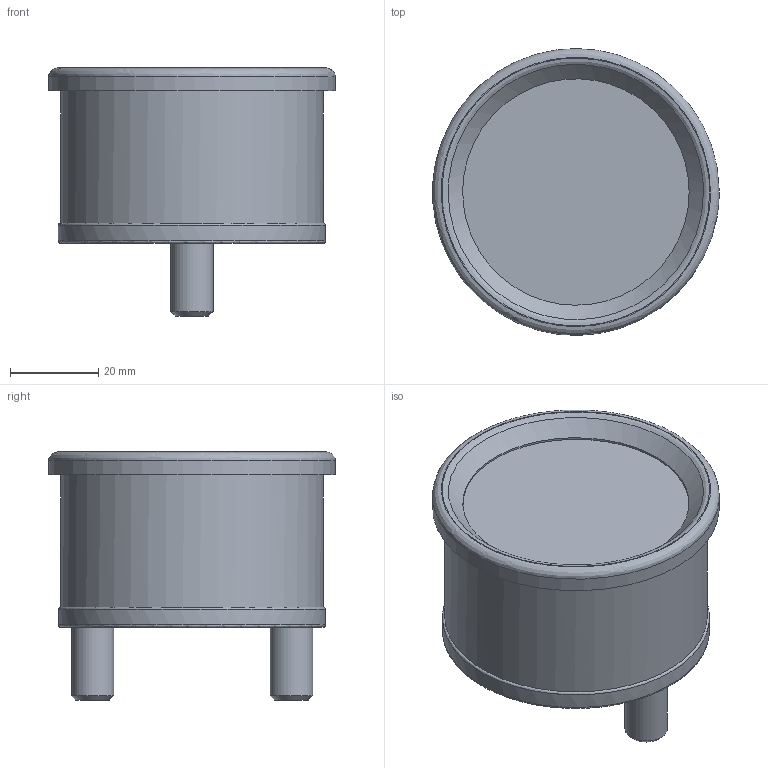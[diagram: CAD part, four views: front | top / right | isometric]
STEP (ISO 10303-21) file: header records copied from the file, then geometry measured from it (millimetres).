
FILE_DESCRIPTION(/* description */ (''),/* implementation_level */ '2;1');
FILE_NAME(/* name */ '1',/* time_stamp */ '2022-06-30T10:47:39+02:00',/* author */ (''),/* organization */ (''),/* preprocessor_version */ 'ST-DEVELOPER v16.5',/* originating_system */ 'Rhino 7.20',/* authorisation */ '');
FILE_SCHEMA (('AUTOMOTIVE_DESIGN_CC2'));
Length unit declared in the file: millimetre
Products named in the file (1): Document
Bounding box: 64.94 x 64.99 x 56.2 mm (x, y, z)
Volume: 105618.2 mm3; surface area: 15397.3 mm2
Topology: 1 solids, 1 shells, 19 faces, 31 edges, 18 vertices
Faces by surface type: bspline 7, cylinder 6, plane 6
Full cylindrical faces by diameter (mm): 9.64 x2, 51.3 x1, 59.5 x1, 60.5 x1, 65 x1
Entity records: 638 total; most frequent: CARTESIAN_POINT 386, ORIENTED_EDGE 62, EDGE_CURVE 31, EDGE_LOOP 23, ADVANCED_FACE 19, FACE_OUTER_BOUND 19, VERTEX_POINT 18, DIRECTION 16
